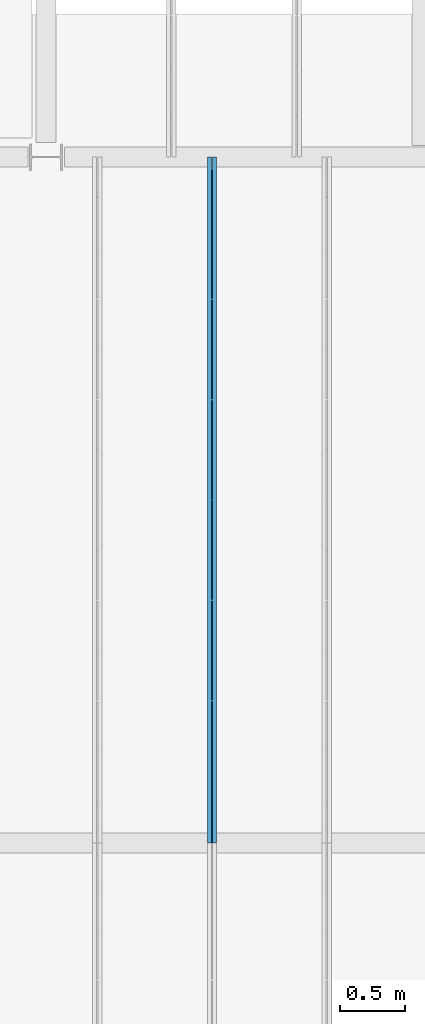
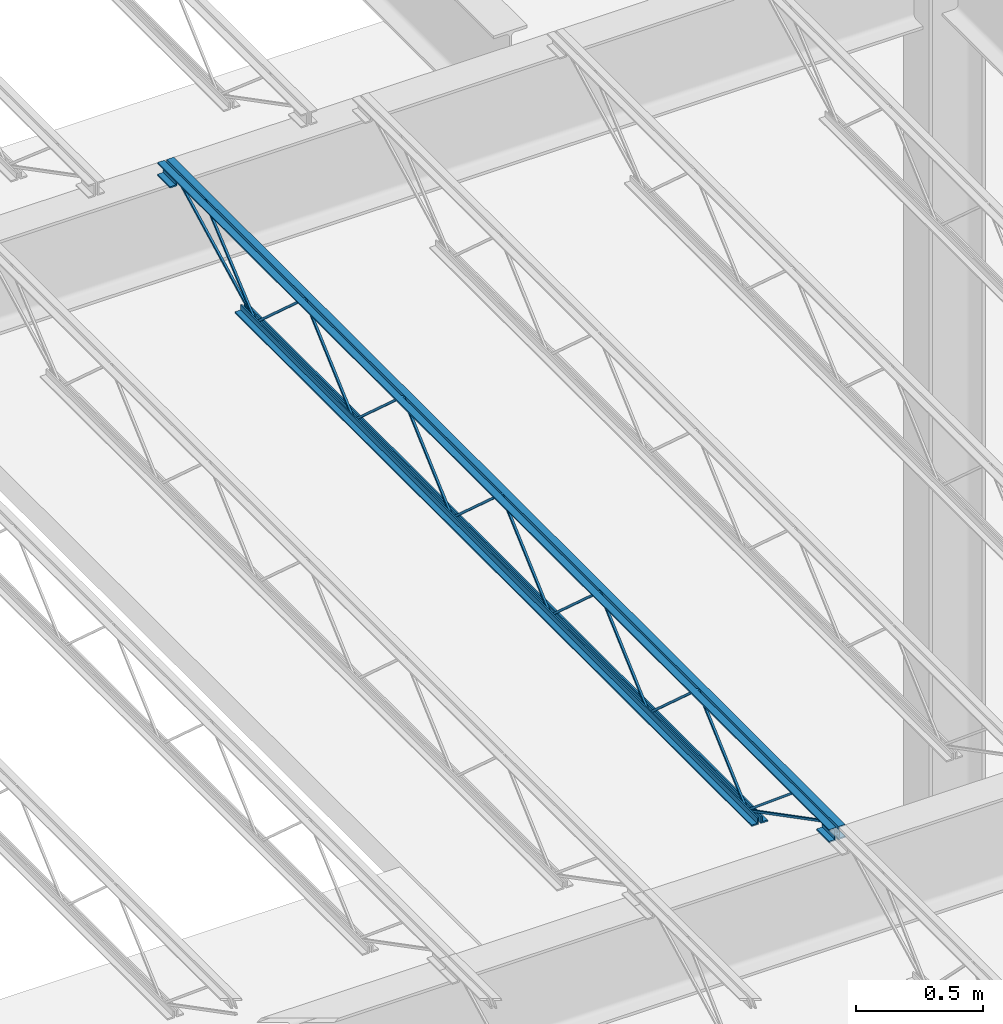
# One storey, part 83 of 119: 1 beam.
"""IFC2X3 building model written with IfcOpenShell, lengths in metres."""

from ifc_helpers import new_model, entity, si_unit, converted_unit, frame, origin, place, context, project, spatial, face_set, surface_model, element, save


model = new_model("IFC2X3")

# Units and contexts
model_context = context("Model", 3, precision=1e-09, world=origin())
plan_context = context("Plan", 3, precision=1e-09, world=origin())
ifc_project = project(units=[si_unit("LENGTHUNIT", "METRE"), si_unit("AREAUNIT", "SQUARE_METRE"), si_unit("VOLUMEUNIT", "CUBIC_METRE"), converted_unit("PLANEANGLEUNIT", "DEGREE", entity("IfcRatioMeasure", 0.01745329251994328), si_unit("PLANEANGLEUNIT", "RADIAN"), dimensions=[0, 0, 0, 0, 0, 0, 0]), si_unit("TIMEUNIT", "SECOND")], contexts=[model_context, plan_context])

# Site, building, storey
site_placement = place(None, origin())
site = spatial("IfcSite", under=ifc_project, at=site_placement, Name="Default", CompositionType="ELEMENT")
building_placement = place(site_placement, origin())
building = spatial("IfcBuilding", under=site, at=building_placement, CompositionType="ELEMENT")
storey_placement = place(building_placement, frame((0.0, 0.0, 4.570000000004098)))
storey = spatial("IfcBuildingStorey", under=building, at=storey_placement, Name="Second Floor", CompositionType="ELEMENT", Elevation=4.570000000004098)

# Beam
beam_placement = place(storey_placement, frame((-37.14175000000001, 44.78050000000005, 4.323999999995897)))
element("IfcBeam", 1, at=beam_placement, inside=storey, Name="M_K-Series Bar Joist-Rod Web:14K1:14K1", ObjectType="M_K-Series Bar Joist-Rod Web:14K1", context=model_context, shape_type="SurfaceModel", body=[
    surface_model("IfcFaceBasedSurfaceModel", [(0.04150000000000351, 3.042999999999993, 0.01110000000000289), (0.03200000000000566, 3.042999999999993, 0.01110000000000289), (0.03200000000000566, 3.042999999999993, 0.001600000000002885), (0.04150000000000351, 3.042999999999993, 0.001600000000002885), (0.03200000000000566, 3.044354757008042, 0.01110000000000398), (0.0415000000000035, 3.044354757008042, 0.01110000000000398), (0.03200000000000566, 3.047995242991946, 0.001600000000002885), (0.03200000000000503, 3.430145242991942, 0.3449000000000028), (0.03200000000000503, 3.432854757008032, 0.3449000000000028), (0.03200000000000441, 3.815004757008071, 0.001600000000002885), (0.0320000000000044, 3.819999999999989, 0.001600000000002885), (0.0320000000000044, 3.819999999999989, 0.01110000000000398), (0.0320000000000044, 3.818645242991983, 0.01110000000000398), (0.03200000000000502, 3.436495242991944, 0.3544000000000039), (0.03200000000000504, 3.426504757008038, 0.3544000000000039), (0.04150000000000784, 3.047995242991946, 0.001600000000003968), (0.04150000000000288, 3.43014524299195, 0.3449000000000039), (0.04150000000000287, 3.432854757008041, 0.3449000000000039), (0.04150000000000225, 3.815004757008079, 0.001600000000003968), (0.04150000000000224, 3.819999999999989, 0.001600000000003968), (0.04150000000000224, 3.819999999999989, 0.01110000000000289), (0.04150000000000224, 3.818645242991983, 0.01110000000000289), (0.04150000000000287, 3.436495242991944, 0.3544000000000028), (0.04150000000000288, 3.426504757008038, 0.3544000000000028), (0.04150000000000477, 2.265999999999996, 0.01110000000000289), (0.03200000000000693, 2.265999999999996, 0.01110000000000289), (0.03200000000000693, 2.265999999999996, 0.001600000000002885), (0.04150000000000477, 2.265999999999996, 0.001600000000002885), (0.03200000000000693, 2.267354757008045, 0.01110000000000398), (0.04150000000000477, 2.267354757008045, 0.01110000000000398), (0.03200000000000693, 2.270995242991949, 0.001600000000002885), (0.0320000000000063, 2.653145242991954, 0.3449000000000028), (0.0320000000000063, 2.655854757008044, 0.3449000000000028), (0.03200000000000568, 3.038004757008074, 0.001600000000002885), (0.03200000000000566, 3.042999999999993, 0.01110000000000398), (0.03200000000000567, 3.041645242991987, 0.01110000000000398), (0.03200000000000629, 2.659495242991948, 0.3544000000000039), (0.03200000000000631, 2.649504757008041, 0.3544000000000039), (0.0415000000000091, 2.270995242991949, 0.001600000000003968), (0.04150000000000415, 2.653145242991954, 0.3449000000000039), (0.04150000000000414, 2.655854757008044, 0.3449000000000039), (0.04150000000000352, 3.038004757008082, 0.001600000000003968), (0.04150000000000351, 3.042999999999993, 0.001600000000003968), (0.04150000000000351, 3.041645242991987, 0.01110000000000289), (0.04150000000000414, 2.659495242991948, 0.3544000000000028), (0.04150000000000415, 2.649504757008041, 0.3544000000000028), (0.04150000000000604, 1.488999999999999, 0.01110000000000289), (0.0320000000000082, 1.488999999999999, 0.01110000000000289), (0.0320000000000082, 1.488999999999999, 0.001600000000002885), (0.04150000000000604, 1.488999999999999, 0.001600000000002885), (0.0320000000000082, 1.490354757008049, 0.01110000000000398), (0.04150000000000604, 1.490354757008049, 0.01110000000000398), (0.0320000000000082, 1.493995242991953, 0.001600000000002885), (0.03200000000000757, 1.876145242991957, 0.3449000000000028), (0.03200000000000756, 1.878854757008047, 0.3449000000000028), (0.03200000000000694, 2.261004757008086, 0.001600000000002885), (0.03200000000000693, 2.266000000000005, 0.001600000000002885), (0.03200000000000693, 2.265999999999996, 0.01110000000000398), (0.03200000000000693, 2.26464524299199, 0.01110000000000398), (0.03200000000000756, 1.882495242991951, 0.3544000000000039), (0.03200000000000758, 1.872504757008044, 0.3544000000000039), (0.04150000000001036, 1.493995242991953, 0.001600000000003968), (0.04150000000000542, 1.876145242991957, 0.3449000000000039), (0.04150000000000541, 1.878854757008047, 0.3449000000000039), (0.04150000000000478, 2.261004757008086, 0.001600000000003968), (0.04150000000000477, 2.265999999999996, 0.001600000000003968), (0.04150000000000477, 2.266000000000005, 0.01110000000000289), (0.04150000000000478, 2.26464524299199, 0.01110000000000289), (0.04150000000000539, 1.88249524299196, 0.3544000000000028), (0.04150000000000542, 1.872504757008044, 0.3544000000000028), (0.04149999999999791, 3.819999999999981, 0.01109999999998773), (0.03200000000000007, 3.819999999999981, 0.01109999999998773), (0.03200000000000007, 3.819999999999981, 0.001599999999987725), (0.04149999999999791, 3.819999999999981, 0.001599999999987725), (0.03200000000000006, 3.82135475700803, 0.01109999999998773), (0.04149999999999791, 3.82135475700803, 0.01109999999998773), (0.03200000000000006, 3.824995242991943, 0.001599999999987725), (0.03200000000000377, 4.207145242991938, 0.3448999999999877), (0.03200000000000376, 4.209854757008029, 0.3448999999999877), (0.03200000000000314, 4.592004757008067, 0.001599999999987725), (0.03200000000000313, 4.596999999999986, 0.001599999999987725), (0.0319999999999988, 4.596999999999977, 0.01109999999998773), (0.0319999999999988, 4.595645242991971, 0.01109999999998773), (0.03199999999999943, 4.213495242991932, 0.3543999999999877), (0.03199999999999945, 4.203504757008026, 0.3543999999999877), (0.04150000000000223, 3.824995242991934, 0.001599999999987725), (0.04149999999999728, 4.207145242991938, 0.3448999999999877), (0.04149999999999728, 4.209854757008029, 0.3448999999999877), (0.04149999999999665, 4.592004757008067, 0.001599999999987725), (0.04149999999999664, 4.596999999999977, 0.001599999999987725), (0.04150000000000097, 4.596999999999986, 0.01109999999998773), (0.04150000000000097, 4.59564524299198, 0.01109999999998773), (0.0415000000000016, 4.213495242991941, 0.3543999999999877), (0.04150000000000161, 4.203504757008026, 0.3543999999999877), (0.04150000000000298, 0.7120000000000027, 0.01110000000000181), (0.03200000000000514, 0.7120000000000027, 0.01110000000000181), (0.03200000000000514, 0.7120000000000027, 0.001600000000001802), (0.04150000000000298, 0.7120000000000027, 0.001600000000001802), (0.03200000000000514, 0.7133547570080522, 0.01110000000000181), (0.04150000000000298, 0.7133547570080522, 0.01110000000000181), (0.03200000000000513, 0.7169952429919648, 0.001600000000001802), (0.0320000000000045, 1.09914524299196, 0.3449000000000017), (0.0320000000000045, 1.101854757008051, 0.3449000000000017), (0.03200000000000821, 1.484004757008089, 0.001600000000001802), (0.0320000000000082, 1.489000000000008, 0.001600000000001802), (0.03200000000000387, 1.488999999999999, 0.01110000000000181), (0.03200000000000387, 1.487645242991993, 0.01110000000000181), (0.0320000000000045, 1.105495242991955, 0.3544000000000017), (0.03200000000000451, 1.095504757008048, 0.3544000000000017), (0.0415000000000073, 0.7169952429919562, 0.001600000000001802), (0.04150000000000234, 1.09914524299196, 0.3449000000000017), (0.04150000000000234, 1.101854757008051, 0.3449000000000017), (0.04150000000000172, 1.484004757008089, 0.001600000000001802), (0.04150000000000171, 1.488999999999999, 0.001600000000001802), (0.04150000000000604, 1.489000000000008, 0.01110000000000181), (0.04150000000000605, 1.487645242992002, 0.01110000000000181), (0.04150000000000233, 1.105495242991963, 0.3544000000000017), (0.04150000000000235, 1.095504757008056, 0.3544000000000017), (0.0320000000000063, 5.309000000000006, 0.3559999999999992), (0.0, 5.309000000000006, 0.3559999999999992), (0.0, 5.309000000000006, 0.3494999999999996), (0.02550000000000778, 5.309000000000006, 0.3494999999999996), (0.02550000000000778, 5.309000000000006, 0.3239999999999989), (0.0320000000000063, 5.309000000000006, 0.3239999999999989), (0.04150000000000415, 5.309000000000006, 0.3559999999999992), (0.04150000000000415, 5.309000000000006, 0.3239999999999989), (0.048000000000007, 5.309000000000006, 0.3239999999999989), (0.048000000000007, 5.309000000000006, 0.3494999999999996), (0.07350000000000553, 5.309000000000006, 0.3494999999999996), (0.07350000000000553, 5.309000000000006, 0.3559999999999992), (0.0320000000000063, 0.0, 0.3559999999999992), (0.0, 0.0, 0.3559999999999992), (0.0, 0.0, 0.3494999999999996), (0.02550000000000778, 0.0, 0.3494999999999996), (0.02550000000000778, 0.0, 0.3239999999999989), (0.0320000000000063, 0.0, 0.3239999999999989), (0.04150000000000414, 0.0, 0.3559999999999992), (0.04150000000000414, 0.0, 0.3239999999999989), (0.04800000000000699, 0.0, 0.3239999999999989), (0.04800000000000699, 0.0, 0.3494999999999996), (0.07350000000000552, 0.0, 0.3494999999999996), (0.07350000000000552, 0.0, 0.3559999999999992), (0.04150000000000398, 0.09999999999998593, 0.2924999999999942), (0.07350000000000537, 0.09999999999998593, 0.2924999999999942), (0.07350000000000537, 0.09999999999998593, 0.2989999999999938), (0.0480000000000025, 0.09999999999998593, 0.2989999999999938), (0.0480000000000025, 0.09999999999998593, 0.3239999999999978), (0.04150000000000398, 0.09999999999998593, 0.3239999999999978), (0.0, 0.09999999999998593, 0.2924999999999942), (0.03200000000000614, 0.09999999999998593, 0.2924999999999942), (0.03200000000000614, 0.09999999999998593, 0.3239999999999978), (0.02550000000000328, 0.09999999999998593, 0.3239999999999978), (0.02550000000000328, 0.09999999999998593, 0.2989999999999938), (0.0, 0.09999999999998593, 0.2989999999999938), (0.04150000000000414, 0.0, 0.2924999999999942), (0.07350000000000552, 0.0, 0.2924999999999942), (0.07350000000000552, 0.0, 0.2989999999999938), (0.04800000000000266, 0.0, 0.2989999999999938), (0.04800000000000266, 0.0, 0.3239999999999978), (0.04150000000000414, 0.0, 0.3239999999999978), (0.0, 0.0, 0.2924999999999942), (0.0320000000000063, 0.0, 0.2924999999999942), (0.0320000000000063, 0.0, 0.3239999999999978), (0.02550000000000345, 0.0, 0.3239999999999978), (0.02550000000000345, 0.0, 0.2989999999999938), (0.0, 0.0, 0.2989999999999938), (0.0320000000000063, 5.309000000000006, 0.2924999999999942), (0.0320000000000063, 5.309000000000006, 0.3239999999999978), (0.02550000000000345, 5.309000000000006, 0.3239999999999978), (0.02550000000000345, 5.309000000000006, 0.2989999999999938), (0.0, 5.309000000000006, 0.2989999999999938), (0.0, 5.309000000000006, 0.2924999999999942), (0.04150000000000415, 5.309000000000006, 0.2924999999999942), (0.07350000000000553, 5.309000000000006, 0.2924999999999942), (0.07350000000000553, 5.309000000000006, 0.2989999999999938), (0.04800000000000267, 5.309000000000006, 0.2989999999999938), (0.04800000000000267, 5.309000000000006, 0.3239999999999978), (0.04150000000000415, 5.309000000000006, 0.3239999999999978), (0.03200000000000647, 5.209000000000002, 0.2924999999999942), (0.03200000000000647, 5.209000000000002, 0.3239999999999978), (0.02550000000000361, 5.209000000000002, 0.3239999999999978), (0.02550000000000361, 5.209000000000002, 0.2989999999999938), (0.0, 5.209000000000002, 0.2989999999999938), (0.0, 5.209000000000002, 0.2924999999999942), (0.0415000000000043, 5.209000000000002, 0.2924999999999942), (0.0735000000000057, 5.209000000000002, 0.2924999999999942), (0.0735000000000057, 5.209000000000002, 0.2989999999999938), (0.04800000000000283, 5.209000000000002, 0.2989999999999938), (0.04800000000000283, 5.209000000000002, 0.3239999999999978), (0.0415000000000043, 5.209000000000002, 0.3239999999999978), (0.0320000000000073, 4.697000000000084, 0.0), (0.0320000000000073, 4.697000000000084, 0.03199999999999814), (0.02550000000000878, 4.697000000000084, 0.03199999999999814), (0.02550000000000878, 4.697000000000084, 0.006499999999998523), (0.0, 4.697000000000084, 0.006499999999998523), (0.0, 4.697000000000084, 0.0), (0.04150000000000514, 4.697000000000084, 0.0), (0.07350000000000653, 4.697000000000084, 0.0), (0.07350000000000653, 4.697000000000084, 0.006499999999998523), (0.048000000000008, 4.697000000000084, 0.006499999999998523), (0.048000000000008, 4.697000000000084, 0.03199999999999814), (0.04150000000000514, 4.697000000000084, 0.03199999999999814), (0.0320000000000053, 0.6120000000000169, 0.0), (0.0320000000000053, 0.6120000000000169, 0.03199999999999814), (0.02550000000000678, 0.6120000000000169, 0.03199999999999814), (0.02550000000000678, 0.6120000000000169, 0.006499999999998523), (0.0, 0.6120000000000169, 0.006499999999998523), (0.0, 0.6120000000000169, 0.0), (0.04150000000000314, 0.6120000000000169, 0.0), (0.07350000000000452, 0.6120000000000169, 0.0), (0.07350000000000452, 0.6120000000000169, 0.006499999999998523), (0.04800000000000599, 0.6120000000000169, 0.006499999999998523), (0.04800000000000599, 0.6120000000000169, 0.03199999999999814), (0.04150000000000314, 0.6120000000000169, 0.03199999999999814), (0.04150000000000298, 0.7141882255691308, 0.01056594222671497), (0.03200000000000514, 0.7141882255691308, 0.01056594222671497), (0.03200000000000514, 0.709811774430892, 0.00213405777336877), (0.04150000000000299, 0.709811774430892, 0.00213405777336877), (0.04150000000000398, 0.1011592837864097, 0.3287499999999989), (0.04150000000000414, 0.0, 0.3287499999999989), (0.04150000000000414, 0.0, 0.3192499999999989), (0.04150000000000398, 0.09884071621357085, 0.3192499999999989), (0.03200000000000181, 0.09884071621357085, 0.3192499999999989), (0.03200000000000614, 0.1011592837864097, 0.3287499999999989), (0.0320000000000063, 0.0, 0.3287499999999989), (0.0320000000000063, 0.0, 0.3192499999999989), (0.04150000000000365, 0.3035428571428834, 0.3417000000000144), (0.0320000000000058, 0.3035428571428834, 0.3417000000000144), (0.0320000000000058, 0.3035428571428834, 0.3322000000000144), (0.04150000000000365, 0.3035428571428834, 0.3322000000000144), (0.03200000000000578, 0.3179658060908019, 0.3417000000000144), (0.04150000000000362, 0.3179658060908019, 0.3417000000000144), (0.03200000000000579, 0.3145199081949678, 0.3322000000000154), (0.03200000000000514, 0.7089547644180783, 0.002704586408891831), (0.03200000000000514, 0.7150452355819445, 0.009995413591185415), (0.04150000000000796, 0.3145199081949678, 0.3322000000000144), (0.04150000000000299, 0.7089547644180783, 0.002704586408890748), (0.04150000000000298, 0.7150452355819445, 0.009995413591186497), (0.0415000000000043, 5.211188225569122, 0.3197840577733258), (0.0415000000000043, 5.206811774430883, 0.328215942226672), (0.03200000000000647, 5.206811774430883, 0.328215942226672), (0.03200000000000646, 5.211188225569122, 0.3197840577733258), (0.0415000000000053, 4.599188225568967, 0.002134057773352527), (0.0415000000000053, 4.594811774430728, 0.01056594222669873), (0.03200000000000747, 4.594811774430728, 0.01056594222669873), (0.03200000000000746, 4.599188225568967, 0.002134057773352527), (0.04150000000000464, 5.00309445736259, 0.3460340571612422), (0.04150000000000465, 4.996934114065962, 0.35326594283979), (0.03200000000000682, 4.996934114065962, 0.3532659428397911), (0.0320000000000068, 5.00309445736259, 0.3460340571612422), (0.0415000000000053, 4.600080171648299, 0.002734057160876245), (0.04150000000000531, 4.593919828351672, 0.00996594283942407), (0.03200000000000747, 4.593919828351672, 0.00996594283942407), (0.03200000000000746, 4.600080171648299, 0.002734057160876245)], [face_set([[[0, 1, 2, 3]], [[1, 4, 5, 0]], [[2, 6, 7, 8, 9, 10, 11, 12, 13, 14, 4, 1]], [[3, 2, 6, 15]], [[0, 3, 15, 16, 17, 18, 19, 20, 21, 22, 23, 5]], [[4, 5, 23, 14]], [[15, 16, 7, 6]], [[14, 13, 22, 23]], [[16, 7, 8, 17]], [[13, 12, 21, 22]], [[17, 8, 9, 18]], [[20, 11, 10, 19]], [[12, 11, 20, 21]], [[18, 9, 10, 19]]]), face_set([[[24, 25, 26, 27]], [[25, 28, 29, 24]], [[26, 30, 31, 32, 33, 2, 34, 35, 36, 37, 28, 25]], [[27, 26, 30, 38]], [[24, 27, 38, 39, 40, 41, 42, 0, 43, 44, 45, 29]], [[28, 29, 45, 37]], [[38, 39, 31, 30]], [[37, 36, 44, 45]], [[39, 31, 32, 40]], [[36, 35, 43, 44]], [[40, 32, 33, 41]], [[0, 34, 2, 42]], [[35, 34, 0, 43]], [[41, 33, 2, 42]]]), face_set([[[46, 47, 48, 49]], [[47, 50, 51, 46]], [[48, 52, 53, 54, 55, 56, 57, 58, 59, 60, 50, 47]], [[49, 48, 52, 61]], [[46, 49, 61, 62, 63, 64, 65, 66, 67, 68, 69, 51]], [[50, 51, 69, 60]], [[61, 62, 53, 52]], [[60, 59, 68, 69]], [[62, 53, 54, 63]], [[59, 58, 67, 68]], [[63, 54, 55, 64]], [[66, 57, 56, 65]], [[58, 57, 66, 67]], [[64, 55, 56, 65]]]), face_set([[[70, 71, 72, 73]], [[71, 74, 75, 70]], [[72, 76, 77, 78, 79, 80, 81, 82, 83, 84, 74, 71]], [[73, 72, 76, 85]], [[70, 73, 85, 86, 87, 88, 89, 90, 91, 92, 93, 75]], [[74, 75, 93, 84]], [[85, 86, 77, 76]], [[84, 83, 92, 93]], [[86, 77, 78, 87]], [[83, 82, 91, 92]], [[87, 78, 79, 88]], [[90, 81, 80, 89]], [[82, 81, 90, 91]], [[88, 79, 80, 89]]]), face_set([[[94, 95, 96, 97]], [[95, 98, 99, 94]], [[96, 100, 101, 102, 103, 104, 105, 106, 107, 108, 98, 95]], [[97, 96, 100, 109]], [[94, 97, 109, 110, 111, 112, 113, 114, 115, 116, 117, 99]], [[98, 99, 117, 108]], [[109, 110, 101, 100]], [[108, 107, 116, 117]], [[110, 101, 102, 111]], [[107, 106, 115, 116]], [[111, 102, 103, 112]], [[114, 105, 104, 113]], [[106, 105, 114, 115]], [[112, 103, 104, 113]]]), face_set([[[118, 119, 120, 121, 122, 123]], [[124, 125, 126, 127, 128, 129]], [[130, 131, 132, 133, 134, 135]], [[136, 137, 138, 139, 140, 141]], [[123, 118, 130, 135]], [[122, 123, 135, 134]], [[121, 133, 134, 122]], [[120, 121, 133, 132]], [[119, 131, 132, 120]], [[118, 130, 131, 119]], [[129, 141, 136, 124]], [[128, 129, 141, 140]], [[127, 128, 140, 139]], [[126, 127, 139, 138]], [[125, 126, 138, 137]], [[124, 136, 137, 125]]]), face_set([[[142, 143, 144, 145, 146, 147]], [[148, 149, 150, 151, 152, 153]], [[154, 155, 156, 157, 158, 159]], [[160, 161, 162, 163, 164, 165]], [[147, 159, 154, 142]], [[146, 158, 159, 147]], [[145, 146, 158, 157]], [[144, 156, 157, 145]], [[143, 144, 156, 155]], [[142, 143, 155, 154]], [[153, 165, 160, 148]], [[152, 164, 165, 153]], [[151, 163, 164, 152]], [[150, 162, 163, 151]], [[149, 150, 162, 161]], [[148, 149, 161, 160]]]), face_set([[[166, 167, 168, 169, 170, 171]], [[172, 173, 174, 175, 176, 177]], [[178, 179, 180, 181, 182, 183]], [[184, 185, 186, 187, 188, 189]], [[171, 166, 178, 183]], [[170, 182, 183, 171]], [[169, 181, 182, 170]], [[168, 180, 181, 169]], [[167, 179, 180, 168]], [[166, 167, 179, 178]], [[177, 189, 184, 172]], [[176, 188, 189, 177]], [[175, 176, 188, 187]], [[174, 186, 187, 175]], [[173, 174, 186, 185]], [[172, 173, 185, 184]]]), face_set([[[190, 191, 192, 193, 194, 195]], [[196, 197, 198, 199, 200, 201]], [[202, 203, 204, 205, 206, 207]], [[208, 209, 210, 211, 212, 213]], [[195, 190, 202, 207]], [[194, 206, 207, 195]], [[193, 205, 206, 194]], [[192, 204, 205, 193]], [[191, 203, 204, 192]], [[190, 191, 203, 202]], [[201, 213, 208, 196]], [[200, 212, 213, 201]], [[199, 200, 212, 211]], [[198, 210, 211, 199]], [[197, 198, 210, 209]], [[196, 197, 209, 208]]]), face_set([[[214, 215, 216, 217]], [[217, 214, 218, 219, 220, 221]], [[216, 217, 221, 222]], [[215, 223, 224, 225, 222, 216]], [[214, 218, 223, 215]], [[219, 224, 225, 220]], [[222, 221, 220, 225]], [[218, 219, 224, 223]]]), face_set([[[226, 227, 228, 229]], [[227, 230, 231, 226]], [[228, 232, 233, 234, 230, 227]], [[229, 228, 232, 235]], [[226, 229, 235, 236, 237, 231]], [[237, 234, 233, 236]], [[230, 234, 237, 231]], [[235, 232, 233, 236]]]), face_set([[[238, 239, 240, 241]], [[242, 243, 244, 245]], [[241, 245, 242, 238]], [[240, 244, 245, 241]], [[239, 240, 244, 243]], [[238, 239, 243, 242]]]), face_set([[[246, 247, 248, 249]], [[250, 251, 252, 253]], [[249, 253, 250, 246]], [[248, 252, 253, 249]], [[247, 248, 252, 251]], [[246, 247, 251, 250]]])]),
])

save(model, "model.ifc")
